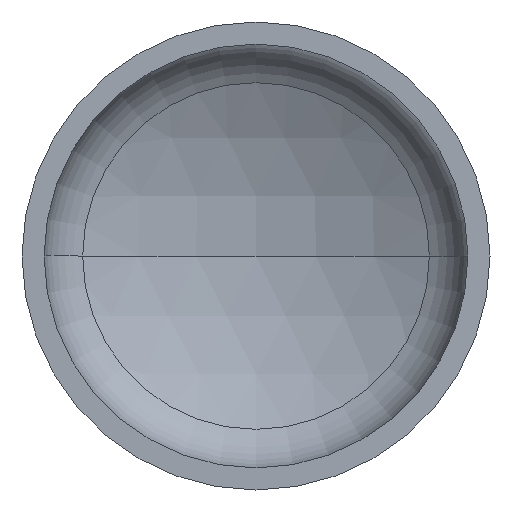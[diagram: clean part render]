
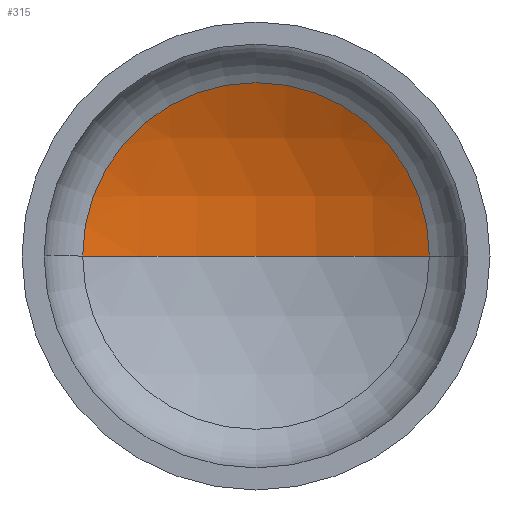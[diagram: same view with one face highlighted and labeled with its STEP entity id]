
A CAD part, front view. The second image highlights one B-rep face of the part: STEP entity #315.
In plain terms, the highlighted spherical face has radius 1120 mm.
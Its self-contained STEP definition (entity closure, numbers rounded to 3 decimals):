
#2 = VERTEX_POINT ( 'NONE', #252 ) ;
#5 = EDGE_LOOP ( 'NONE', ( #231, #170, #219 ) ) ;
#10 = SPHERICAL_SURFACE ( 'NONE', #66, 1120. ) ;
#37 = AXIS2_PLACEMENT_3D ( 'NONE', #319, #259, #138 ) ;
#41 = AXIS2_PLACEMENT_3D ( 'NONE', #258, #299, #405 ) ;
#47 = DIRECTION ( 'NONE',  ( 0., -1., 0. ) ) ;
#49 = DIRECTION ( 'NONE',  ( 1., 0., 0. ) ) ;
#53 = AXIS2_PLACEMENT_3D ( 'NONE', #275, #47, #49 ) ;
#66 = AXIS2_PLACEMENT_3D ( 'NONE', #382, #145, #385 ) ;
#102 = VERTEX_POINT ( 'NONE', #236 ) ;
#109 = CIRCLE ( 'NONE', #37, 1120. ) ;
#138 = DIRECTION ( 'NONE',  ( -1., 0., 0. ) ) ;
#145 = DIRECTION ( 'NONE',  ( 0., 0., -1. ) ) ;
#170 = ORIENTED_EDGE ( 'NONE', *, *, #361, .T. ) ;
#183 = VERTEX_POINT ( 'NONE', #210 ) ;
#210 = CARTESIAN_POINT ( 'NONE',  ( 518.541, 310.569, 0. ) ) ;
#219 = ORIENTED_EDGE ( 'NONE', *, *, #351, .T. ) ;
#231 = ORIENTED_EDGE ( 'NONE', *, *, #364, .F. ) ;
#236 = CARTESIAN_POINT ( 'NONE',  ( 0., 437.838, 0. ) ) ;
#252 = CARTESIAN_POINT ( 'NONE',  ( -518.541, 310.569, 0. ) ) ;
#258 = CARTESIAN_POINT ( 'NONE',  ( 0., -682.162, 0. ) ) ;
#259 = DIRECTION ( 'NONE',  ( 0., 0., -1. ) ) ;
#275 = CARTESIAN_POINT ( 'NONE',  ( 0., 310.569, 0. ) ) ;
#299 = DIRECTION ( 'NONE',  ( 0., 0., 1. ) ) ;
#315 = ADVANCED_FACE ( 'NONE', ( #368 ), #10, .F. ) ;
#319 = CARTESIAN_POINT ( 'NONE',  ( 0., -682.162, 0. ) ) ;
#351 = EDGE_CURVE ( 'NONE', #183, #2, #406, .T. ) ;
#356 = CIRCLE ( 'NONE', #41, 1120. ) ;
#361 = EDGE_CURVE ( 'NONE', #102, #183, #109, .T. ) ;
#364 = EDGE_CURVE ( 'NONE', #102, #2, #356, .T. ) ;
#368 = FACE_OUTER_BOUND ( 'NONE', #5, .T. ) ;
#382 = CARTESIAN_POINT ( 'NONE',  ( 0., -682.162, 0. ) ) ;
#385 = DIRECTION ( 'NONE',  ( -1., 0., 0. ) ) ;
#405 = DIRECTION ( 'NONE',  ( 1., 0., 0. ) ) ;
#406 = CIRCLE ( 'NONE', #53, 518.541 ) ;
